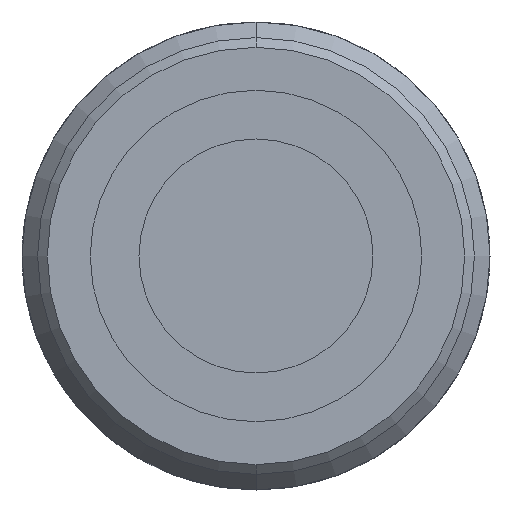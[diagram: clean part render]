
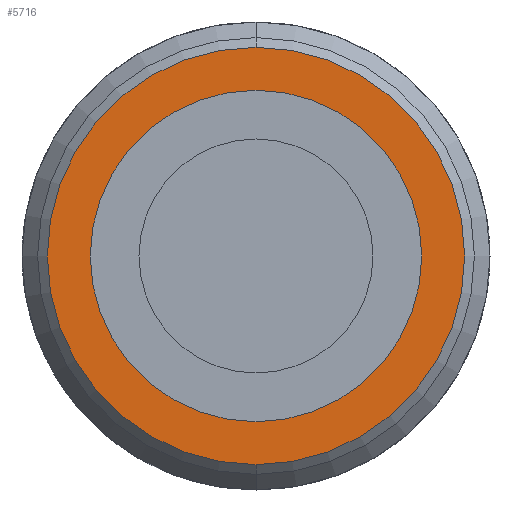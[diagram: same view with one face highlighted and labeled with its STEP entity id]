
A CAD part, front view. The second image highlights one B-rep face of the part: STEP entity #5716.
In plain terms, the highlighted planar face has unit normal (0, -1, 0).
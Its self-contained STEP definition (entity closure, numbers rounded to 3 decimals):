
#175 = CARTESIAN_POINT ( 'NONE',  ( 0., 2.601, 8.5 ) ) ;
#182 = DIRECTION ( 'NONE',  ( 0., -1., 0. ) ) ;
#283 = EDGE_CURVE ( 'NONE', #3514, #9131, #826, .T. ) ;
#379 = PLANE ( 'NONE',  #10747 ) ;
#826 = CIRCLE ( 'NONE', #7298, 8.5 ) ;
#1103 = CIRCLE ( 'NONE', #10483, 8.5 ) ;
#1637 = DIRECTION ( 'NONE',  ( 0., -1., 0. ) ) ;
#1651 = CIRCLE ( 'NONE', #2256, 10.7 ) ;
#2021 = EDGE_CURVE ( 'NONE', #9131, #3514, #1103, .T. ) ;
#2256 = AXIS2_PLACEMENT_3D ( 'NONE', #5880, #182, #6848 ) ;
#2269 = DIRECTION ( 'NONE',  ( 0., 0., 1. ) ) ;
#2832 = DIRECTION ( 'NONE',  ( 0., -1., 0. ) ) ;
#3149 = ORIENTED_EDGE ( 'NONE', *, *, #7085, .T. ) ;
#3514 = VERTEX_POINT ( 'NONE', #10202 ) ;
#3565 = VERTEX_POINT ( 'NONE', #3616 ) ;
#3616 = CARTESIAN_POINT ( 'NONE',  ( 0., 2.601, 10.7 ) ) ;
#3775 = FACE_BOUND ( 'NONE', #5692, .T. ) ;
#3844 = ORIENTED_EDGE ( 'NONE', *, *, #9477, .T. ) ;
#4074 = FACE_OUTER_BOUND ( 'NONE', #11863, .T. ) ;
#4332 = ORIENTED_EDGE ( 'NONE', *, *, #2021, .F. ) ;
#5181 = CARTESIAN_POINT ( 'NONE',  ( 0., 2.601, -10.7 ) ) ;
#5675 = CARTESIAN_POINT ( 'NONE',  ( 0., 2.601, 0. ) ) ;
#5692 = EDGE_LOOP ( 'NONE', ( #8698, #4332 ) ) ;
#5716 = ADVANCED_FACE ( 'NONE', ( #3775, #4074 ), #379, .F. ) ;
#5880 = CARTESIAN_POINT ( 'NONE',  ( 0., 2.601, 0. ) ) ;
#6452 = AXIS2_PLACEMENT_3D ( 'NONE', #8625, #2832, #9584 ) ;
#6655 = DIRECTION ( 'NONE',  ( 0., 0., -1. ) ) ;
#6848 = DIRECTION ( 'NONE',  ( 0., 0., -1. ) ) ;
#7051 = CARTESIAN_POINT ( 'NONE',  ( -10.7, 2.601, 0. ) ) ;
#7085 = EDGE_CURVE ( 'NONE', #3565, #8440, #1651, .T. ) ;
#7298 = AXIS2_PLACEMENT_3D ( 'NONE', #7386, #1637, #8373 ) ;
#7386 = CARTESIAN_POINT ( 'NONE',  ( 0., 2.601, 0. ) ) ;
#7790 = CIRCLE ( 'NONE', #6452, 10.7 ) ;
#8029 = DIRECTION ( 'NONE',  ( 0., 1., 0. ) ) ;
#8373 = DIRECTION ( 'NONE',  ( 0., 0., -1. ) ) ;
#8440 = VERTEX_POINT ( 'NONE', #5181 ) ;
#8625 = CARTESIAN_POINT ( 'NONE',  ( 0., 2.601, 0. ) ) ;
#8698 = ORIENTED_EDGE ( 'NONE', *, *, #283, .F. ) ;
#9131 = VERTEX_POINT ( 'NONE', #175 ) ;
#9477 = EDGE_CURVE ( 'NONE', #8440, #3565, #7790, .T. ) ;
#9584 = DIRECTION ( 'NONE',  ( 0., 0., -1. ) ) ;
#10202 = CARTESIAN_POINT ( 'NONE',  ( 0., 2.601, -8.5 ) ) ;
#10483 = AXIS2_PLACEMENT_3D ( 'NONE', #5675, #12458, #6655 ) ;
#10747 = AXIS2_PLACEMENT_3D ( 'NONE', #7051, #8029, #2269 ) ;
#11863 = EDGE_LOOP ( 'NONE', ( #3149, #3844 ) ) ;
#12458 = DIRECTION ( 'NONE',  ( 0., -1., 0. ) ) ;
